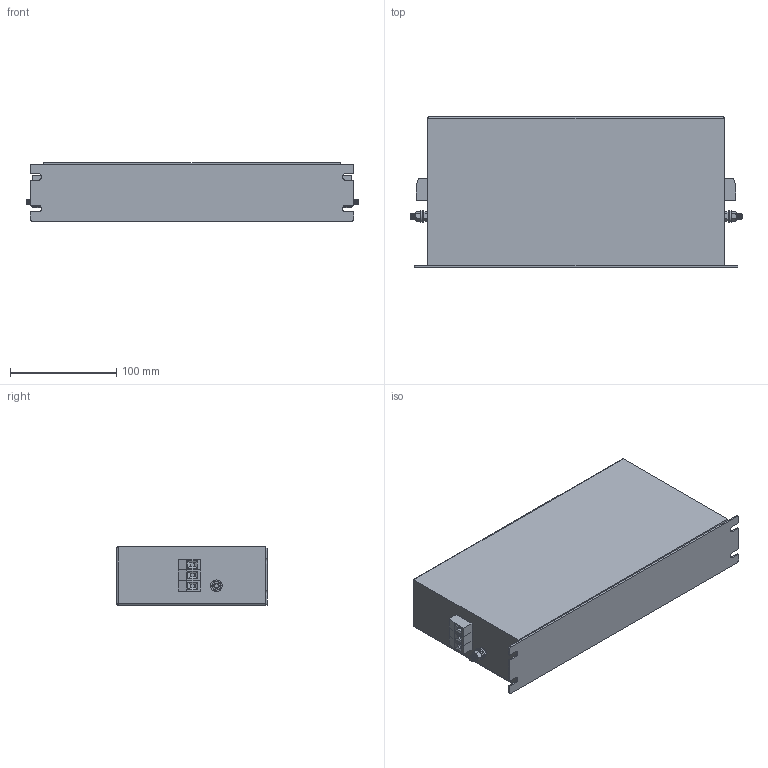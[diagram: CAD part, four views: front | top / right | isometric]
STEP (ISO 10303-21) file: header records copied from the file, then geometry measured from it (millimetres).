
FILE_DESCRIPTION (( 'STEP AP203' ), '1' );
FILE_NAME ('NF-R-16.STEP', '2021-03-11T17:46:52', ( '' ), ( '' ), 'SwSTEP 2.0', 'SolidWorks 2017', '' );
FILE_SCHEMA (( 'CONFIG_CONTROL_DESIGN' ));
Length unit declared in the file: millimetre
Products named in the file (8): VDFK-4; hex screw_am_B18.6.7M - M5 x 0.8 x 13 Indented HHMS --13S; VDFK4x3; NF-R-16; M5x20 Earth post; hex nut style 1_am_B18.2.4.1M - Hex nut, Style 1,  M5 x 0.8 --D-N; flat washer narrow_am_B18.22M - Plain washer, 5 mm, narrow
Assembly tree (12 placements, depth 3):
  NF-R-16
    NF-R-16
    M5x20 Earth post  x2
      flat washer narrow_am_B18.22M - Plain washer, 5 mm, narrow
      hex nut style 1_am_B18.2.4.1M - Hex nut, Style 1,  M5 x 0.8 --D-N
      hex screw_am_B18.6.7M - M5 x 0.8 x 13 Indented HHMS --13S
    VDFK4x3  x2
      VDFK-4
Bounding box: 312.6 x 142 x 55 mm (x, y, z)
Volume: 2146152.2 mm3; surface area: 193851.8 mm2
Topology: 16 solids, 16 shells, 586 faces, 1436 edges, 908 vertices
Faces by surface type: plane 266, cone 176, cylinder 142, sphere 2
Entity records: 8191 total; most frequent: CARTESIAN_POINT 1375, DIRECTION 1327, ORIENTED_EDGE 1178, EDGE_CURVE 589, AXIS2_PLACEMENT_3D 522, VERTEX_POINT 370, LINE 283, VECTOR 283
